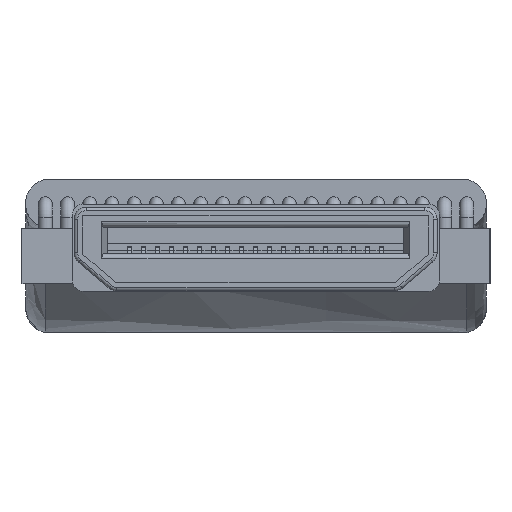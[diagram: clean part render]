
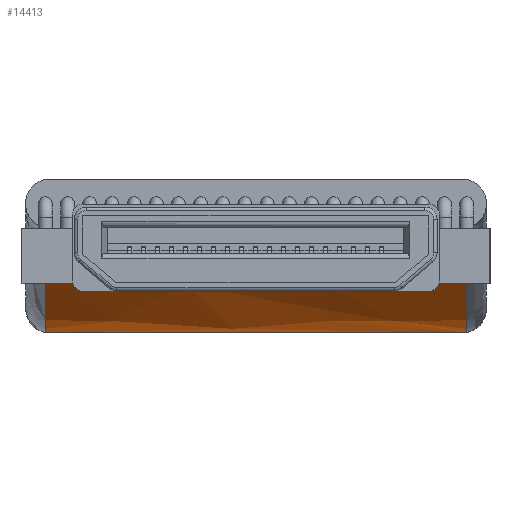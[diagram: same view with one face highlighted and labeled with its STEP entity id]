
A CAD part, front view. The second image highlights one B-rep face of the part: STEP entity #14413.
In plain terms, the highlighted free-form (B-spline) face has degree [3, 3] with [4, 9] control points.
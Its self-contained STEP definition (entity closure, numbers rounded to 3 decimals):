
#13332 = VERTEX_POINT('',#13333);
#13333 = CARTESIAN_POINT('',(0.,-1.4,-20.)
  );
#13339 = EDGE_CURVE('',#13332,#13340,#13342,.T.);
#13340 = VERTEX_POINT('',#13341);
#13341 = CARTESIAN_POINT('',(12.065,-1.4,-20.));
#13342 = LINE('',#13343,#13344);
#13343 = CARTESIAN_POINT('',(12.065,-1.4,-20.));
#13344 = VECTOR('',#13345,1.);
#13345 = DIRECTION('',(1.,0.,0.));
#14342 = EDGE_CURVE('',#13340,#14343,#14345,.T.);
#14343 = VERTEX_POINT('',#14344);
#14344 = CARTESIAN_POINT('',(12.065,-4.4,
    -30.025));
#14345 = B_SPLINE_CURVE_WITH_KNOTS('',3,(#14346,#14347,#14348,#14349,
    #14350,#14351,#14352,#14353,#14354),.UNSPECIFIED.,.F.,.F.,(4,1,1,1,1
    ,1,4),(0.,0.184,0.368,0.552,
    0.696,0.842,1.),.UNSPECIFIED.);
#14346 = CARTESIAN_POINT('',(12.065,-1.4,-20.));
#14347 = CARTESIAN_POINT('',(12.065,-1.437,
    -20.601));
#14348 = CARTESIAN_POINT('',(12.065,-1.51,
    -21.803));
#14349 = CARTESIAN_POINT('',(12.065,-2.079,
    -23.473));
#14350 = CARTESIAN_POINT('',(12.065,-2.941,
    -24.987));
#14351 = CARTESIAN_POINT('',(12.065,-3.756,
    -26.516));
#14352 = CARTESIAN_POINT('',(12.065,-4.375,
    -28.175));
#14353 = CARTESIAN_POINT('',(12.065,-4.392,
    -29.393));
#14354 = CARTESIAN_POINT('',(12.065,-4.4,
    -30.025));
#14413 = ADVANCED_FACE('',(#14414),#14438,.T.);
#14414 = FACE_BOUND('',#14415,.T.);
#14415 = EDGE_LOOP('',(#14416,#14417,#14431,#14437));
#14416 = ORIENTED_EDGE('',*,*,#13339,.F.);
#14417 = ORIENTED_EDGE('',*,*,#14418,.T.);
#14418 = EDGE_CURVE('',#13332,#14419,#14421,.T.);
#14419 = VERTEX_POINT('',#14420);
#14420 = CARTESIAN_POINT('',(0.,-4.4,
    -30.025));
#14421 = B_SPLINE_CURVE_WITH_KNOTS('',3,(#14422,#14423,#14424,#14425,
    #14426,#14427,#14428,#14429,#14430),.UNSPECIFIED.,.F.,.F.,(4,1,1,1,1
    ,1,4),(0.,0.184,0.368,0.552,
    0.696,0.842,1.),.UNSPECIFIED.);
#14422 = CARTESIAN_POINT('',(0.,-1.4,-20.));
#14423 = CARTESIAN_POINT('',(0.,-1.437,
    -20.601));
#14424 = CARTESIAN_POINT('',(0.,-1.51,
    -21.803));
#14425 = CARTESIAN_POINT('',(0.,-2.079,
    -23.473));
#14426 = CARTESIAN_POINT('',(0.,-2.941,
    -24.987));
#14427 = CARTESIAN_POINT('',(0.,-3.756,
    -26.516));
#14428 = CARTESIAN_POINT('',(0.,-4.375,
    -28.175));
#14429 = CARTESIAN_POINT('',(0.,-4.392,
    -29.393));
#14430 = CARTESIAN_POINT('',(0.,-4.4,
    -30.025));
#14431 = ORIENTED_EDGE('',*,*,#14432,.F.);
#14432 = EDGE_CURVE('',#14343,#14419,#14433,.T.);
#14433 = LINE('',#14434,#14435);
#14434 = CARTESIAN_POINT('',(6.032,-4.4,
    -30.025));
#14435 = VECTOR('',#14436,1.);
#14436 = DIRECTION('',(-1.,0.,0.));
#14437 = ORIENTED_EDGE('',*,*,#14342,.F.);
#14438 = B_SPLINE_SURFACE_WITH_KNOTS('',3,3,(
    (#14439,#14440,#14441,#14442,#14443,#14444,#14445,#14446,#14447)
    ,(#14448,#14449,#14450,#14451,#14452,#14453,#14454,#14455,#14456)
    ,(#14457,#14458,#14459,#14460,#14461,#14462,#14463,#14464,#14465)
    ,(#14466,#14467,#14468,#14469,#14470,#14471,#14472,#14473,#14474
  )),.UNSPECIFIED.,.F.,.F.,.F.,(4,4),(4,1,1,1,1,1,4),(
    0.052,0.5),(0.,0.184,0.368,
    0.552,0.696,0.842,1.),.UNSPECIFIED.);
#14439 = CARTESIAN_POINT('',(12.065,-1.4,-20.));
#14440 = CARTESIAN_POINT('',(12.065,-1.437,
    -20.601));
#14441 = CARTESIAN_POINT('',(12.065,-1.51,
    -21.803));
#14442 = CARTESIAN_POINT('',(12.065,-2.079,
    -23.473));
#14443 = CARTESIAN_POINT('',(12.065,-2.941,
    -24.987));
#14444 = CARTESIAN_POINT('',(12.065,-3.756,
    -26.516));
#14445 = CARTESIAN_POINT('',(12.065,-4.375,
    -28.175));
#14446 = CARTESIAN_POINT('',(12.065,-4.392,
    -29.393));
#14447 = CARTESIAN_POINT('',(12.065,-4.4,
    -30.025));
#14448 = CARTESIAN_POINT('',(8.043,-1.4,-20.));
#14449 = CARTESIAN_POINT('',(8.043,-1.437,
    -20.601));
#14450 = CARTESIAN_POINT('',(8.043,-1.51,
    -21.803));
#14451 = CARTESIAN_POINT('',(8.043,-2.079,
    -23.473));
#14452 = CARTESIAN_POINT('',(8.043,-2.941,
    -24.987));
#14453 = CARTESIAN_POINT('',(8.043,-3.756,
    -26.516));
#14454 = CARTESIAN_POINT('',(8.043,-4.375,
    -28.175));
#14455 = CARTESIAN_POINT('',(8.043,-4.392,
    -29.393));
#14456 = CARTESIAN_POINT('',(8.043,-4.4,
    -30.025));
#14457 = CARTESIAN_POINT('',(4.022,-1.4,-20.));
#14458 = CARTESIAN_POINT('',(4.022,-1.437,
    -20.601));
#14459 = CARTESIAN_POINT('',(4.022,-1.51,
    -21.803));
#14460 = CARTESIAN_POINT('',(4.022,-2.079,
    -23.473));
#14461 = CARTESIAN_POINT('',(4.022,-2.941,
    -24.987));
#14462 = CARTESIAN_POINT('',(4.022,-3.756,
    -26.516));
#14463 = CARTESIAN_POINT('',(4.022,-4.375,
    -28.175));
#14464 = CARTESIAN_POINT('',(4.022,-4.392,
    -29.393));
#14465 = CARTESIAN_POINT('',(4.022,-4.4,
    -30.025));
#14466 = CARTESIAN_POINT('',(0.,-1.4,-20.));
#14467 = CARTESIAN_POINT('',(0.,-1.437,
    -20.601));
#14468 = CARTESIAN_POINT('',(0.,-1.51,
    -21.803));
#14469 = CARTESIAN_POINT('',(0.,-2.079,
    -23.473));
#14470 = CARTESIAN_POINT('',(0.,-2.941,
    -24.987));
#14471 = CARTESIAN_POINT('',(0.,-3.756,
    -26.516));
#14472 = CARTESIAN_POINT('',(0.,-4.375,
    -28.175));
#14473 = CARTESIAN_POINT('',(0.,-4.392,
    -29.393));
#14474 = CARTESIAN_POINT('',(0.,-4.4,
    -30.025));
